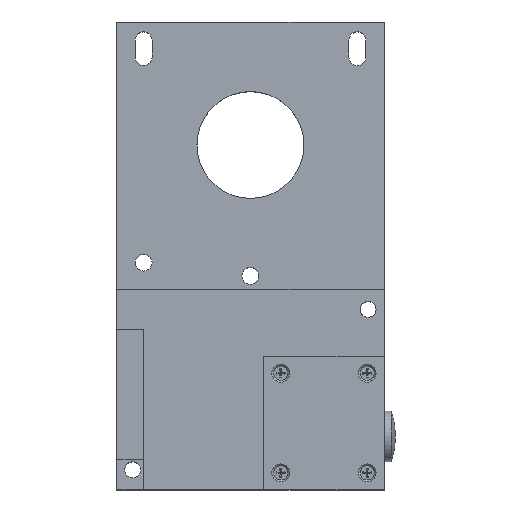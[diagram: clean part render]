
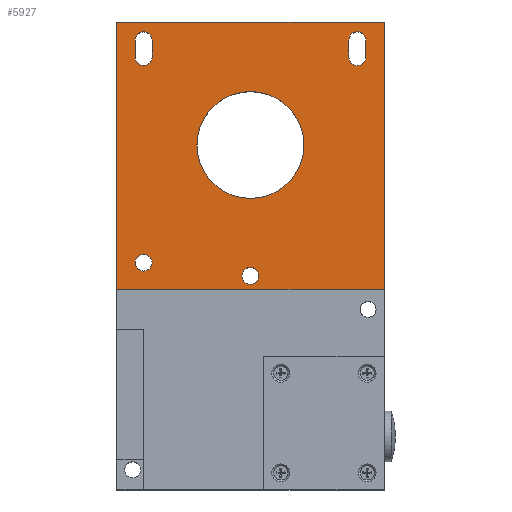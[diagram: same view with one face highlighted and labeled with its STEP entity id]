
A CAD part, top view. The second image highlights one B-rep face of the part: STEP entity #5927.
In plain terms, the highlighted planar face has unit normal (0, 0, 1).
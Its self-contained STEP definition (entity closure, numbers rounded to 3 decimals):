
#1436=CARTESIAN_POINT('',(100.,75.0,32.0));
#1437=VERTEX_POINT('',#1436);
#1656=CARTESIAN_POINT('',(0.,75.0,32.0));
#1657=VERTEX_POINT('',#1656);
#1658=CARTESIAN_POINT('',(0.,75.0,32.0));
#1659=DIRECTION('',(1.0,0.0,0.0));
#1660=VECTOR('',#1659,100.);
#1661=LINE('',#1658,#1660);
#1662=EDGE_CURVE('',#1657,#1437,#1661,.T.);
#5792=CARTESIAN_POINT('',(50.0,125.0,32.0));
#5793=DIRECTION('',(0.0,0.0,1.0));
#5794=DIRECTION('',(1.0,0.0,0.0));
#5795=AXIS2_PLACEMENT_3D('',#5792,#5793,#5794);
#5796=PLANE('',#5795);
#5797=CARTESIAN_POINT('',(100.0,175.0,32.0));
#5798=VERTEX_POINT('',#5797);
#5799=CARTESIAN_POINT('',(100.0,175.0,32.0));
#5800=DIRECTION('',(0.0,-1.0,0.0));
#5801=VECTOR('',#5800,100.0);
#5802=LINE('',#5799,#5801);
#5803=EDGE_CURVE('',#5798,#1437,#5802,.T.);
#5804=ORIENTED_EDGE('',*,*,#5803,.F.);
#5805=CARTESIAN_POINT('',(0.,175.0,32.0));
#5806=VERTEX_POINT('',#5805);
#5807=CARTESIAN_POINT('',(0.,175.0,32.0));
#5808=DIRECTION('',(1.0,0.0,0.0));
#5809=VECTOR('',#5808,100.0);
#5810=LINE('',#5807,#5809);
#5811=EDGE_CURVE('',#5806,#5798,#5810,.T.);
#5812=ORIENTED_EDGE('',*,*,#5811,.F.);
#5813=CARTESIAN_POINT('',(0.,75.0,32.0));
#5814=DIRECTION('',(0.0,1.0,0.0));
#5815=VECTOR('',#5814,100.0);
#5816=LINE('',#5813,#5815);
#5817=EDGE_CURVE('',#1657,#5806,#5816,.T.);
#5818=ORIENTED_EDGE('',*,*,#5817,.F.);
#5819=ORIENTED_EDGE('',*,*,#1662,.T.);
#5820=EDGE_LOOP('',(#5804,#5812,#5818,#5819));
#5821=FACE_OUTER_BOUND('',#5820,.T.);
#5822=CARTESIAN_POINT('',(93.175,161.825,32.0));
#5823=VERTEX_POINT('',#5822);
#5824=CARTESIAN_POINT('',(86.825,161.825,32.0));
#5825=VERTEX_POINT('',#5824);
#5826=CARTESIAN_POINT('',(90.,161.825,32.0));
#5827=DIRECTION('',(0.0,0.0,-1.0));
#5828=DIRECTION('',(1.0,0.0,0.0));
#5829=AXIS2_PLACEMENT_3D('',#5826,#5827,#5828);
#5830=CIRCLE('',#5829,3.175);
#5831=EDGE_CURVE('',#5823,#5825,#5830,.T.);
#5832=ORIENTED_EDGE('',*,*,#5831,.T.);
#5833=CARTESIAN_POINT('',(86.825,168.175,32.0));
#5834=VERTEX_POINT('',#5833);
#5835=CARTESIAN_POINT('',(86.825,161.825,32.0));
#5836=DIRECTION('',(0.0,1.0,0.0));
#5837=VECTOR('',#5836,6.35);
#5838=LINE('',#5835,#5837);
#5839=EDGE_CURVE('',#5825,#5834,#5838,.T.);
#5840=ORIENTED_EDGE('',*,*,#5839,.T.);
#5841=CARTESIAN_POINT('',(93.175,168.175,32.0));
#5842=VERTEX_POINT('',#5841);
#5843=CARTESIAN_POINT('',(90.,168.175,32.0));
#5844=DIRECTION('',(0.0,0.0,-1.0));
#5845=DIRECTION('',(1.0,0.0,0.0));
#5846=AXIS2_PLACEMENT_3D('',#5843,#5844,#5845);
#5847=CIRCLE('',#5846,3.175);
#5848=EDGE_CURVE('',#5834,#5842,#5847,.T.);
#5849=ORIENTED_EDGE('',*,*,#5848,.T.);
#5850=CARTESIAN_POINT('',(93.175,168.175,32.0));
#5851=DIRECTION('',(0.0,-1.0,0.0));
#5852=VECTOR('',#5851,6.35);
#5853=LINE('',#5850,#5852);
#5854=EDGE_CURVE('',#5842,#5823,#5853,.T.);
#5855=ORIENTED_EDGE('',*,*,#5854,.T.);
#5856=EDGE_LOOP('',(#5832,#5840,#5849,#5855));
#5857=FACE_BOUND('',#5856,.T.);
#5858=CARTESIAN_POINT('',(13.175,85.0,32.0));
#5859=VERTEX_POINT('',#5858);
#5860=CARTESIAN_POINT('',(10.0,85.0,32.0));
#5861=DIRECTION('',(0.0,0.0,-1.0));
#5862=DIRECTION('',(-1.0,0.0,0.0));
#5863=AXIS2_PLACEMENT_3D('',#5860,#5861,#5862);
#5864=CIRCLE('',#5863,3.175);
#5865=EDGE_CURVE('',#5859,#5859,#5864,.T.);
#5866=ORIENTED_EDGE('',*,*,#5865,.T.);
#5867=EDGE_LOOP('',(#5866));
#5868=FACE_BOUND('',#5867,.T.);
#5869=CARTESIAN_POINT('',(53.175,80.0,32.0));
#5870=VERTEX_POINT('',#5869);
#5871=CARTESIAN_POINT('',(50.0,80.0,32.0));
#5872=DIRECTION('',(0.0,0.0,-1.0));
#5873=DIRECTION('',(-1.0,0.0,0.0));
#5874=AXIS2_PLACEMENT_3D('',#5871,#5872,#5873);
#5875=CIRCLE('',#5874,3.175);
#5876=EDGE_CURVE('',#5870,#5870,#5875,.T.);
#5877=ORIENTED_EDGE('',*,*,#5876,.T.);
#5878=EDGE_LOOP('',(#5877));
#5879=FACE_BOUND('',#5878,.T.);
#5880=CARTESIAN_POINT('',(6.825,168.175,32.0));
#5881=VERTEX_POINT('',#5880);
#5882=CARTESIAN_POINT('',(13.175,168.175,32.0));
#5883=VERTEX_POINT('',#5882);
#5884=CARTESIAN_POINT('',(10.,168.175,32.0));
#5885=DIRECTION('',(0.0,0.0,-1.0));
#5886=DIRECTION('',(1.0,0.0,0.0));
#5887=AXIS2_PLACEMENT_3D('',#5884,#5885,#5886);
#5888=CIRCLE('',#5887,3.175);
#5889=EDGE_CURVE('',#5881,#5883,#5888,.T.);
#5890=ORIENTED_EDGE('',*,*,#5889,.T.);
#5891=CARTESIAN_POINT('',(13.175,161.825,32.0));
#5892=VERTEX_POINT('',#5891);
#5893=CARTESIAN_POINT('',(13.175,168.175,32.0));
#5894=DIRECTION('',(0.0,-1.0,0.0));
#5895=VECTOR('',#5894,6.35);
#5896=LINE('',#5893,#5895);
#5897=EDGE_CURVE('',#5883,#5892,#5896,.T.);
#5898=ORIENTED_EDGE('',*,*,#5897,.T.);
#5899=CARTESIAN_POINT('',(6.825,161.825,32.0));
#5900=VERTEX_POINT('',#5899);
#5901=CARTESIAN_POINT('',(10.,161.825,32.0));
#5902=DIRECTION('',(0.0,0.0,-1.0));
#5903=DIRECTION('',(1.0,0.0,0.0));
#5904=AXIS2_PLACEMENT_3D('',#5901,#5902,#5903);
#5905=CIRCLE('',#5904,3.175);
#5906=EDGE_CURVE('',#5892,#5900,#5905,.T.);
#5907=ORIENTED_EDGE('',*,*,#5906,.T.);
#5908=CARTESIAN_POINT('',(6.825,161.825,32.0));
#5909=DIRECTION('',(0.0,1.0,0.0));
#5910=VECTOR('',#5909,6.35);
#5911=LINE('',#5908,#5910);
#5912=EDGE_CURVE('',#5900,#5881,#5911,.T.);
#5913=ORIENTED_EDGE('',*,*,#5912,.T.);
#5914=EDGE_LOOP('',(#5890,#5898,#5907,#5913));
#5915=FACE_BOUND('',#5914,.T.);
#5916=CARTESIAN_POINT('',(70.0,129.0,32.0));
#5917=VERTEX_POINT('',#5916);
#5918=CARTESIAN_POINT('',(50.0,129.0,32.0));
#5919=DIRECTION('',(0.0,0.0,-1.0));
#5920=DIRECTION('',(-1.0,0.0,0.0));
#5921=AXIS2_PLACEMENT_3D('',#5918,#5919,#5920);
#5922=CIRCLE('',#5921,20.0);
#5923=EDGE_CURVE('',#5917,#5917,#5922,.T.);
#5924=ORIENTED_EDGE('',*,*,#5923,.T.);
#5925=EDGE_LOOP('',(#5924));
#5926=FACE_BOUND('',#5925,.T.);
#5927=ADVANCED_FACE('',(#5821,#5857,#5868,#5879,#5915,#5926),#5796,.T.);
